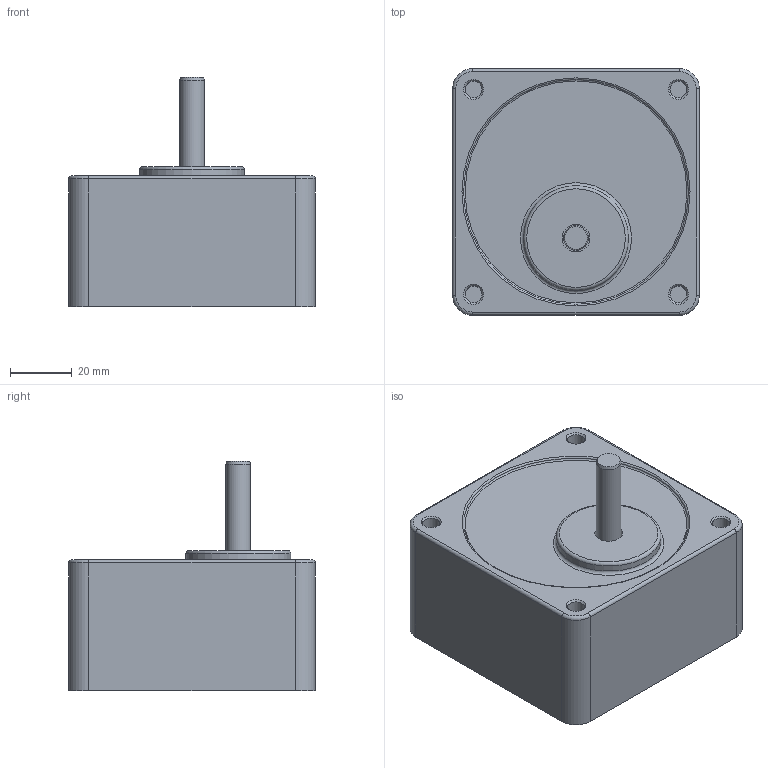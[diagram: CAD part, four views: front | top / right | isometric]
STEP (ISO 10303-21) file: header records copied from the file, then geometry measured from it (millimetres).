
FILE_DESCRIPTION((''),'2;1');
FILE_NAME('D:\미주향3D\GEAR HEAD\GEARHEAD\ㅁ80 25W\S8SA20~200.stp','2013-12-13T13:15:48',('leebh'),(''),'Autodesk Inventor 2011','Autodesk Inventor 2011','');
FILE_SCHEMA(('AUTOMOTIVE_DESIGN { 1 0 10303 214 1 1 1 1 }'));
Length unit declared in the file: millimetre
Products named in the file (1): 부품9
Bounding box: 80 x 80 x 74.5 mm (x, y, z)
Volume: 246559.6 mm3; surface area: 30813.9 mm2
Topology: 1 solids, 1 shells, 46 faces, 86 edges, 52 vertices
Faces by surface type: cylinder 17, plane 16, torus 8, cone 5
Full cylindrical faces by diameter (mm): 5.5 x4, 8 x2, 9 x1, 34 x1, 73 x1
Entity records: 1086 total; most frequent: DIRECTION 210, CARTESIAN_POINT 167, ORIENTED_EDGE 136, AXIS2_PLACEMENT_3D 95, EDGE_LOOP 74, EDGE_CURVE 68, VERTEX_POINT 52, CIRCLE 48
